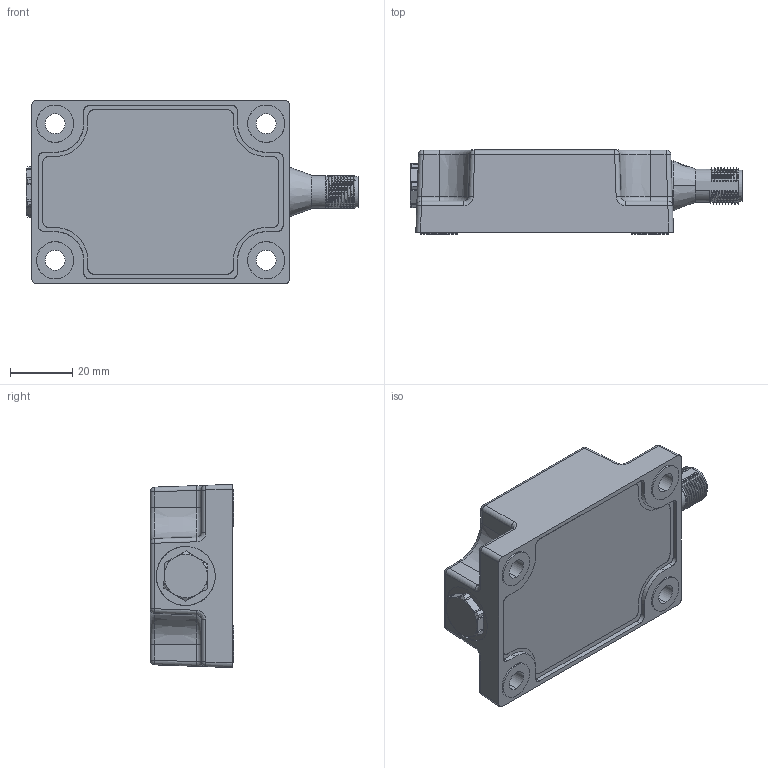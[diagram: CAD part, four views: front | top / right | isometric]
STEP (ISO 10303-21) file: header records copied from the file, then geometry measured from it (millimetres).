
FILE_DESCRIPTION (( 'STEP AP203' ), '1' );
FILE_NAME ('ACS-xxx-x-CA01-xK2-PM.STEP', '2014-04-09T08:33:02', ( '' ), ( '' ), 'SwSTEP 2.0', 'SolidWorks 2014', '' );
FILE_SCHEMA (( 'CONFIG_CONTROL_DESIGN' ));
Length unit declared in the file: millimetre
Products named in the file (1): ACS-xxx-x-CA01-xK2-PM
Bounding box: 106.95 x 27 x 59 mm (x, y, z)
Volume: 51187.7 mm3; surface area: 35385.7 mm2
Topology: 7 solids, 7 shells, 566 faces, 1516 edges, 982 vertices
Faces by surface type: plane 204, cylinder 200, bspline 69, cone 52, torus 22, sphere 19
Entity records: 31459 total; most frequent: CARTESIAN_POINT 18270, ORIENTED_EDGE 2960, DIRECTION 2478, EDGE_CURVE 1480, VERTEX_POINT 970, AXIS2_PLACEMENT_3D 880, VECTOR 718, LINE 718
